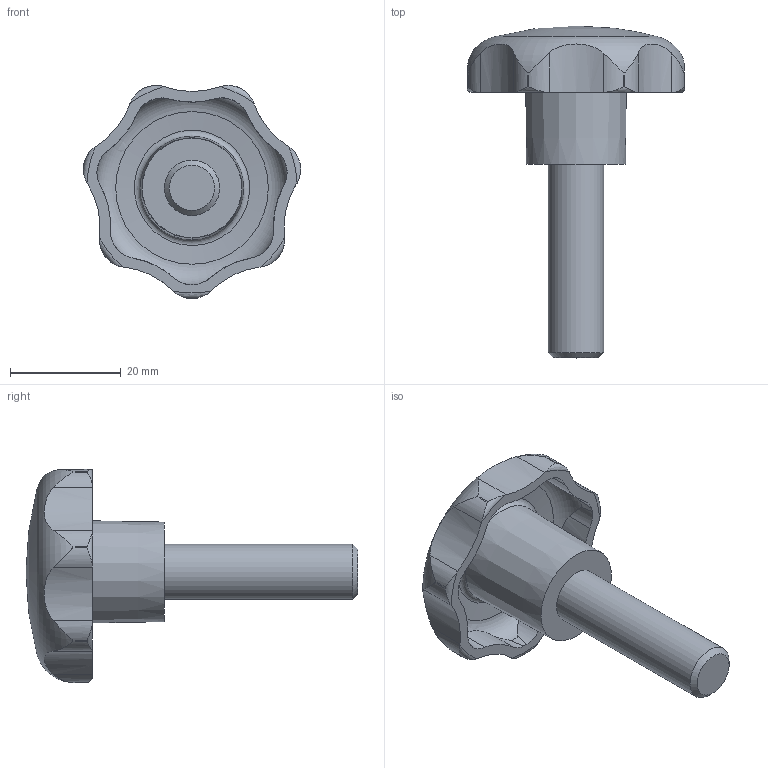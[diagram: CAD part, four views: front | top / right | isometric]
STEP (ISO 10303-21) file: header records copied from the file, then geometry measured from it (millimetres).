
FILE_DESCRIPTION( ( 'STEP AP203' ), '1' );
FILE_NAME( 'C:/Temp/Ganter_Step_05_03_2020/data/2_2/gn_6336_4/gn_6336_4_st/Star knob GN 6336.4-ST-40-M10-35.stp', '2020-03-05T12:07:33', ( 'License CC BY-ND 4.0' ), ( 'CADENAS' ), ' ', 'PARTsolutions', ' ' );
FILE_SCHEMA( ( 'CONFIG_CONTROL_DESIGN' ) );
Length unit declared in the file: millimetre
Products named in the file (1): _Star knob GN 6336.4-ST-40-M10-35
Bounding box: 39.24 x 60 x 38.52 mm (x, y, z)
Volume: 13548.4 mm3; surface area: 5977.1 mm2
Topology: 1 solids, 1 shells, 74 faces, 209 edges, 138 vertices
Faces by surface type: cylinder 43, torus 17, cone 10, plane 3, sphere 1
Full cylindrical faces by diameter (mm): 10 x1
Entity records: 3288 total; most frequent: CARTESIAN_POINT 1437, ORIENTED_EDGE 394, DIRECTION 362, EDGE_CURVE 197, AXIS2_PLACEMENT_3D 160, VERTEX_POINT 135, CIRCLE 85, EDGE_LOOP 83
